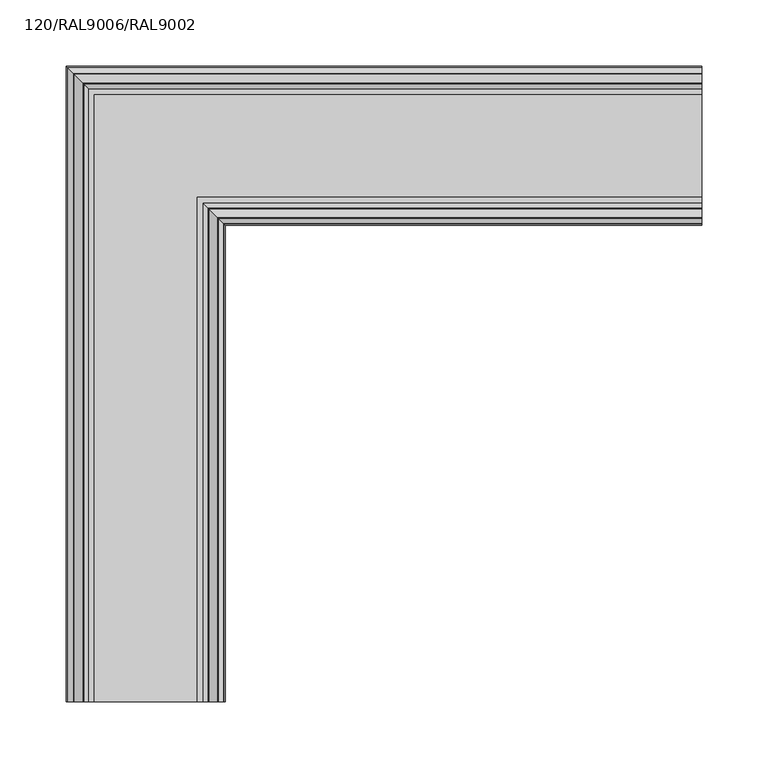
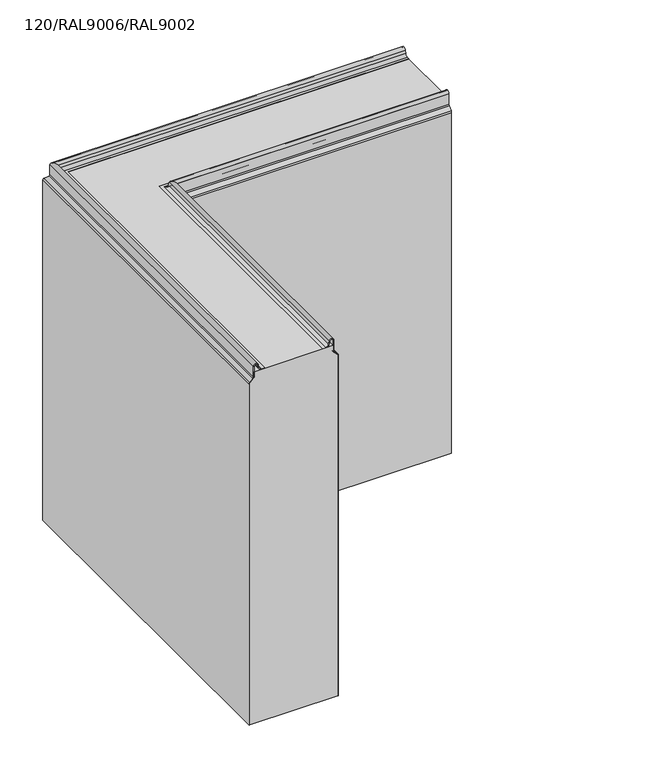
"""IFC4 building model written with IfcOpenShell, lengths in millimetres: plate geometry, TR_C_H_FTV_Corner_Tr_B_cut_TONGUE : 120/RAL9006/RAL9002."""

import ifcopenshell
import ifcopenshell.guid

model = None  # the IFC model being written
_history = None  # IfcOwnerHistory: only IFC2X3 demands one
_inside = {}  # id of a spatial element -> (the spatial element, [elements in it])
_under = {}  # id of a project, library or spatial element -> (it, [spatial elements below it])
_declared = {}  # id of a project -> (the project, [libraries it declares])
_typed = {}  # id of a type object -> (the type object, [elements of that type])
_made_of = {}  # id of a material, layer set ... -> (it, [elements and type objects made of it])


def new_model(schema):
    """Start an empty IFC model of exactly this schema.

    Asked for "IFC4X3", IfcOpenShell would pick the latest addendum, in which some entities
    have other attributes; the version numbers below select the first issue.
    IFC2X3 requires an IfcOwnerHistory on every rooted entity: one is made here for all.
    """
    global model, _history
    if schema == "IFC4X3":
        model = ifcopenshell.file(schema_version=(4, 3, 0, 0))
    else:
        model = ifcopenshell.file(schema=schema)
    _inside.clear()
    _under.clear()
    _declared.clear()
    _typed.clear()
    _made_of.clear()
    _history = None
    if model.schema == "IFC2X3":
        org = make("IfcOrganization", Name="unknown")
        user = make(
            "IfcPersonAndOrganization",
            ThePerson=make("IfcPerson", FamilyName="unknown"),
            TheOrganization=org,
        )
        app = make(
            "IfcApplication",
            ApplicationDeveloper=org,
            Version="unknown",
            ApplicationFullName="unknown",
            ApplicationIdentifier="unknown",
        )
        _history = make(
            "IfcOwnerHistory",
            OwningUser=user,
            OwningApplication=app,
            ChangeAction="ADDED",
            CreationDate=0,
        )
    return model


def make(cls, **values):
    """One entity of the class cls with the attributes given. An attribute that is None is left unset."""
    return model.create_entity(
        cls, **{name: value for name, value in values.items() if value is not None}
    )


def rooted(cls, **values):
    """An entity with a GlobalId (a new one), such as an element, a storey or a relation."""
    return make(cls, GlobalId=ifcopenshell.guid.new(), OwnerHistory=_history, **values)


def si_unit(unit_type, name, prefix=None):
    """IfcSIUnit, for example si_unit("LENGTHUNIT", "METRE", prefix="MILLI")."""
    return make("IfcSIUnit", UnitType=unit_type, Prefix=prefix, Name=name)


def assignment(units):
    """IfcUnitAssignment: the units of a project."""
    return None if units is None else make("IfcUnitAssignment", Units=units)


def point(xyz):
    """IfcCartesianPoint."""
    return None if xyz is None else make("IfcCartesianPoint", Coordinates=xyz)


def direction(xyz):
    """IfcDirection."""
    return None if xyz is None else make("IfcDirection", DirectionRatios=xyz)


def frame(location, z_axis=None, x_axis=None):
    """IfcAxis2Placement3D, a coordinate frame: its origin and axes. An axis left out is left unset."""
    return make(
        "IfcAxis2Placement3D",
        Location=point(location),
        Axis=direction(z_axis),
        RefDirection=direction(x_axis),
    )


def origin():
    """The frame at (0, 0, 0) with its axes left unset."""
    return frame((0.0, 0.0, 0.0))


def place(relative_to, where):
    """IfcLocalPlacement: puts the frame where relative to a parent placement (None: the world)."""
    return make(
        "IfcLocalPlacement", PlacementRelTo=relative_to, RelativePlacement=where
    )


def context(
    kind, dimensions, precision=None, world=None, true_north=None, identifier=None
):
    """IfcGeometricRepresentationContext, for example the 3D "Model" context."""
    return make(
        "IfcGeometricRepresentationContext",
        ContextIdentifier=identifier,
        ContextType=kind,
        CoordinateSpaceDimension=dimensions,
        Precision=precision,
        WorldCoordinateSystem=world,
        TrueNorth=true_north,
    )


def project(units=None, contexts=None):
    """IfcProject with its units and contexts."""
    return rooted(
        "IfcProject",
        Name="project",
        RepresentationContexts=contexts,
        UnitsInContext=assignment(units),
    )


def spatial(cls, under=None, at=None, **own):
    """A site, building, storey or space (cls), placed at a placement, below another one or the project."""
    s = rooted(cls, ObjectPlacement=at, **own)
    if under is not None:
        _under.setdefault(under.id(), (under, []))[1].append(s)
    return s


def polyline(points):
    """IfcPolyline through the points."""
    return make("IfcPolyline", Points=[point(p) for p in points])


def circle_curve(where, radius):
    """IfcCircle in the frame where."""
    return make("IfcCircle", Position=where, Radius=radius)


def ellipse_curve(where, semi_axis1, semi_axis2):
    """IfcEllipse in the frame where."""
    return make(
        "IfcEllipse", Position=where, SemiAxis1=semi_axis1, SemiAxis2=semi_axis2
    )


def shape(context_of_items, identifier, shape_type, items):
    """IfcShapeRepresentation: the items that make up one representation, for example the "Body"."""
    return make(
        "IfcShapeRepresentation",
        ContextOfItems=context_of_items,
        RepresentationIdentifier=identifier,
        RepresentationType=shape_type,
        Items=items,
    )


def source(mapping_origin, context_of_items, identifier, shape_type, items):
    """IfcRepresentationMap: a shape defined once, which mapped items show again and again."""
    return make(
        "IfcRepresentationMap",
        MappingOrigin=mapping_origin,
        MappedRepresentation=shape(context_of_items, identifier, shape_type, items),
    )


def transform(
    local_origin,
    x_axis=None,
    y_axis=None,
    z_axis=None,
    scale=None,
    scale2=None,
    scale3=None,
    uniform=True,
):
    """IfcCartesianTransformationOperator3D, or its non-uniform kind. x_axis, y_axis, z_axis: its Axis1, 2, 3."""
    if uniform:
        return make(
            "IfcCartesianTransformationOperator3D",
            Axis1=direction(x_axis),
            Axis2=direction(y_axis),
            LocalOrigin=point(local_origin),
            Scale=scale,
            Axis3=direction(z_axis),
        )
    return make(
        "IfcCartesianTransformationOperator3DnonUniform",
        Axis1=direction(x_axis),
        Axis2=direction(y_axis),
        LocalOrigin=point(local_origin),
        Scale=scale,
        Axis3=direction(z_axis),
        Scale2=scale2,
        Scale3=scale3,
    )


def mapped(mapping_source, mapping_target):
    """IfcMappedItem: shows the shape of a source again, moved by a transform."""
    return make(
        "IfcMappedItem", MappingSource=mapping_source, MappingTarget=mapping_target
    )


def made_of(thing, what):
    """Note that an element or type object is made of a material, layer set ...; save() writes the relation."""
    if what is not None:
        _made_of.setdefault(what.id(), (what, []))[1].append(thing)
    return thing


def element(
    cls,
    number,
    at=None,
    inside=None,
    cuts=None,
    type_object=None,
    material=None,
    context=None,
    identifier="Body",
    shape_type=None,
    held_by="IfcProductDefinitionShape",
    body=None,
    shapes=None,
    **own,
):
    """One element of the class cls, such as IfcWall. Its Tag is "e" and its number.

    at: its placement. inside: the storey or other place that contains it. cuts: it is an
    opening in that element (IfcRelVoidsElement). A single representation is given by context,
    identifier, shape_type and body (its items); several are given by shapes. held_by: the class
    of the entity that holds the representations. save() writes the other relations.
    """
    e = rooted(cls, Tag="e%d" % number, ObjectPlacement=at, **own)
    if body is not None:
        shapes = [shape(context, identifier, shape_type, body)]
    if shapes is not None:
        e.Representation = make(held_by, Representations=shapes)
    if inside is not None:
        _inside.setdefault(inside.id(), (inside, []))[1].append(e)
    if cuts is not None:
        rooted(
            "IfcRelVoidsElement", RelatingBuildingElement=cuts, RelatedOpeningElement=e
        )
    if type_object is not None:
        _typed.setdefault(type_object.id(), (type_object, []))[1].append(e)
    return made_of(e, material)


def aggregate(whole, parts):
    """IfcRelAggregates: a whole, such as a stair, and the parts it consists of."""
    return rooted("IfcRelAggregates", RelatingObject=whole, RelatedObjects=parts)


def save(model, path):
    """Write the relations noted so far, then the file.

    IfcRelAggregates (storeys below a building ...), IfcRelContainedInSpatialStructure (elements
    in a storey), IfcRelDefinesByType, IfcRelAssociatesMaterial and IfcRelDeclares: one each for
    every whole, place, type object, material and project.
    """
    for whole, parts in _under.values():
        aggregate(whole, parts)
    for where, things in _inside.values():
        rooted(
            "IfcRelContainedInSpatialStructure",
            RelatedElements=things,
            RelatingStructure=where,
        )
    for kind, things in _typed.values():
        rooted("IfcRelDefinesByType", RelatedObjects=things, RelatingType=kind)
    for what, things in _made_of.values():
        rooted("IfcRelAssociatesMaterial", RelatedObjects=things, RelatingMaterial=what)
    for by, libraries in _declared.values():
        rooted("IfcRelDeclares", RelatingContext=by, RelatedDefinitions=libraries)
    model.write(path)


def plane_surface(at):
    """IfcPlane: the flat surface through the origin of the frame at, square to its z axis."""
    return make("IfcPlane", Position=at)


def cylinder_surface(at, radius):
    """IfcCylindricalSurface: all points at the distance radius from the z axis of the frame at."""
    return make("IfcCylindricalSurface", Position=at, Radius=radius)


def revolved_surface(curve, axis_point, axis_direction):
    """IfcSurfaceOfRevolution: the curve turned about the line through axis_point along axis_direction."""
    return make(
        "IfcSurfaceOfRevolution",
        SweptCurve=make("IfcArbitraryOpenProfileDef", ProfileType="CURVE", Curve=curve),
        AxisPosition=make("IfcAxis1Placement", Location=point(axis_point), Axis=direction(axis_direction)),
    )


def advanced_brep(points, edges, surfaces, faces):
    """IfcAdvancedBrep: a solid bounded by faces that lie on surfaces and meet in shared edges.

    An edge is (start, end): straight between two places in points (the first is 0);
    or (start, end, curve); or (start, end, curve, False) where it runs against its curve.
    A face is (place in surfaces, loops), or (place, loops, False) where it looks against
    its surface's normal. A loop lists edges by number (the first is 1), with a minus sign
    where the edge is run from its end to its start. The first loop is the outer one.
    """
    corners = [point(p) for p in points]
    vertices = [make("IfcVertexPoint", VertexGeometry=c) for c in corners]
    made = []
    for start, end, *more in edges:
        made.append(
            make(
                "IfcEdgeCurve",
                EdgeStart=vertices[start],
                EdgeEnd=vertices[end],
                EdgeGeometry=more[0] if more else make("IfcPolyline", Points=[corners[start], corners[end]]),
                SameSense=more[1] if len(more) > 1 else True,
            )
        )
    hull = []
    for where, loops, *sense in faces:
        bounds = []
        for j, loop in enumerate(loops):
            ring = [make("IfcOrientedEdge", EdgeElement=made[abs(k) - 1], Orientation=k > 0) for k in loop]
            bounds.append(
                make(
                    "IfcFaceOuterBound" if j == 0 else "IfcFaceBound",
                    Bound=make("IfcEdgeLoop", EdgeList=ring),
                    Orientation=True,
                )
            )
        hull.append(make("IfcAdvancedFace", Bounds=bounds, FaceSurface=surfaces[where], SameSense=sense[0] if sense else True))
    return make("IfcAdvancedBrep", Outer=make("IfcClosedShell", CfsFaces=hull))


def plate_120_ral9006_ral9002_7ed2c163(model_context):
    return source(origin(), model_context, "Body", "AdvancedBrep", [
        advanced_brep(
        [(240.0, -6.8, 500.0), (240.0, -113.2, 500.0), (240.0, -113.2, 492.6000012), (240.0, -114.1665476, 490.2665488), (240.0, -118.5556349, 485.8774615), (240.0, -119.2, 484.3218266), (240.0, -119.2, 0.0), (240.0, -0.8, 0.0), (240.0, -0.8, 484.3218266), (240.0, -1.4443651, 485.8774615), (240.0, -5.8334524, 490.2665488), (240.0, -6.8, 492.6000012), (-233.2, -6.8, 500.0), (-233.2, -480.0, 500.0), (-126.8, -480.0, 500.0), (-126.8, -113.2, 500.0), (-126.8, -113.2, 492.6000012), (-125.8334524, -114.1665476, 490.2665488), (-121.4443651, -118.5556349, 485.8774615), (-120.8, -119.2, 484.3218266), (-239.2, -0.8, 484.3218266), (-238.5556349, -1.4443651, 485.8774615), (-234.1665476, -5.8334524, 490.2665488), (-233.2, -6.8, 492.6000012), (-233.2, -480.0, 492.6000012), (-234.1665476, -480.0, 490.2665488), (-238.5556349, -480.0, 485.8774615), (-239.2, -480.0, 484.3218266), (-239.2, -480.0, 0.0), (-120.8, -480.0, 0.0), (-120.8, -480.0, 484.3218266), (-121.4443651, -480.0, 485.8774615), (-125.8334524, -480.0, 490.2665488), (-126.8, -480.0, 492.6000012), (-120.8, -119.2, 0.0), (-239.2, -0.8, 0.0)],
        [
            (0, 1),
            (1, 2),
            (2, 3, circle_curve(frame((240.0, -116.5, 492.6000012), z_axis=(-1.0, 0.0, 0.0), x_axis=(0.0, -1.0, 0.0)), 3.3)),
            (3, 4),
            (4, 5, circle_curve(frame((240.0, -117.0, 484.3218266), z_axis=(1.0, 0.0, 0.0), x_axis=(0.0, -1.0, 0.0)), 2.2)),
            (5, 6),
            (6, 7),
            (7, 8),
            (8, 9, circle_curve(frame((240.0, -3.0, 484.3218266), z_axis=(1.0, 0.0, 0.0), x_axis=(0.0, -1.0, 0.0)), 2.2)),
            (9, 10),
            (10, 11, circle_curve(frame((240.0, -3.5, 492.6000012), z_axis=(-1.0, 0.0, 0.0), x_axis=(0.0, -1.0, 0.0)), 3.3)),
            (11, 0),
            (0, 12),
            (12, 13),
            (13, 14),
            (14, 15),
            (15, 1),
            (15, 16),
            (16, 2),
            (16, 17, ellipse_curve(frame((-123.5, -116.5, 492.6000012), z_axis=(-0.7071067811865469, -0.707106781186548, 0.0), x_axis=(-0.7071067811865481, 0.7071067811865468, 0.0)), 4.6669048, 3.3)),
            (17, 3),
            (17, 18),
            (18, 4),
            (18, 19, ellipse_curve(frame((-123.0, -117.0, 484.3218266), z_axis=(0.7071067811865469, 0.707106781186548, 0.0), x_axis=(0.7071067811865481, -0.7071067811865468, 0.0)), 3.1112698, 2.2)),
            (19, 5),
            (8, 20),
            (20, 21, ellipse_curve(frame((-237.0, -3.0, 484.3218266), z_axis=(0.7071067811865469, 0.707106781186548, 0.0), x_axis=(0.7071067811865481, -0.7071067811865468, 0.0)), 3.1112698, 2.2)),
            (21, 9),
            (21, 22),
            (22, 10),
            (22, 23, ellipse_curve(frame((-236.5, -3.5, 492.6000012), z_axis=(-0.7071067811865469, -0.707106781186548, 0.0), x_axis=(-0.7071067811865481, 0.7071067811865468, 0.0)), 4.6669048, 3.3)),
            (23, 11),
            (23, 12),
            (13, 24),
            (24, 25, circle_curve(frame((-236.5, -480.0, 492.6000012), z_axis=(0.0, 1.0, 0.0), x_axis=(1.0, 0.0, 0.0)), 3.3)),
            (25, 26),
            (26, 27, circle_curve(frame((-237.0, -480.0, 484.3218266), z_axis=(0.0, -1.0, 0.0), x_axis=(1.0, 0.0, 0.0)), 2.2)),
            (27, 28),
            (28, 29),
            (29, 30),
            (30, 31, circle_curve(frame((-123.0, -480.0, 484.3218266), z_axis=(0.0, -1.0, 0.0), x_axis=(1.0, 0.0, 0.0)), 2.2)),
            (31, 32),
            (32, 33, circle_curve(frame((-123.5, -480.0, 492.6000012), z_axis=(0.0, 1.0, 0.0), x_axis=(1.0, 0.0, 0.0)), 3.3)),
            (33, 14),
            (33, 16),
            (32, 17),
            (31, 18),
            (30, 19),
            (20, 27),
            (26, 21),
            (25, 22),
            (24, 23),
            (19, 34),
            (34, 6),
            (7, 35),
            (35, 20),
            (29, 34),
            (35, 28),
        ],
        [
            plane_surface(frame((240.0, 0.0, 0.0), z_axis=(1.0, 0.0, 0.0), x_axis=(0.0, 0.0, 1.0))),
            plane_surface(frame((240.0, -6.8, 500.0), z_axis=(0.0, 0.0, 1.0), x_axis=(-1.0, 0.0, 0.0))),
            plane_surface(frame((240.0, -113.2, 500.0), z_axis=(0.0, -1.0, 0.0), x_axis=(-1.0, 0.0, 0.0))),
            revolved_surface(polyline([(-126.80000003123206, -119.8, 492.6000012), (240.0, -119.8, 492.6000012)]), (240.0, -116.5, 492.6000012), (-1.0, 0.0, 0.0)),
            plane_surface(frame((240.0, -114.1665476, 490.2665488), z_axis=(0.0, -0.7071067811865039, 0.7071067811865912), x_axis=(-1.0, 0.0, 0.0))),
            cylinder_surface(frame((240.0, -117.0, 484.3218266), z_axis=(1.0, 0.0, 0.0), x_axis=(0.0, -1.0, 0.0)), 2.2),
            cylinder_surface(frame((240.0, -3.0, 484.3218266), z_axis=(1.0, 0.0, 0.0), x_axis=(0.0, -1.0, 0.0)), 2.2),
            plane_surface(frame((240.0, -1.4443651, 485.8774615), z_axis=(0.0, 0.7071067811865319, 0.7071067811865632), x_axis=(-1.0, 0.0, 0.0))),
            revolved_surface(polyline([(-239.80000003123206, -6.8, 492.6000012), (240.0, -6.8, 492.6000012)]), (240.0, -3.5, 492.6000012), (-1.0, 0.0, 0.0)),
            plane_surface(frame((240.0, -6.8, 492.6000012), z_axis=(0.0, 1.0, 0.0), x_axis=(-1.0, 0.0, 0.0))),
            plane_surface(frame((-240.0, -480.0, 0.0), z_axis=(0.0, -1.0, 0.0), x_axis=(0.0, 0.0, 1.0))),
            plane_surface(frame((-126.8, -113.2, 500.0), z_axis=(1.0, 0.0, 0.0), x_axis=(0.0, -1.0, 0.0))),
            revolved_surface(polyline([(-120.2, -480.0, 492.6000012), (-120.2, -113.19999996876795, 492.6000012)]), (-123.5, 0.0, 492.6000012), (0.0, -1.0, 0.0)),
            plane_surface(frame((-125.8334524, -114.1665476, 490.2665488), z_axis=(0.7071067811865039, 0.0, 0.7071067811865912), x_axis=(0.0, -1.0, 0.0))),
            cylinder_surface(frame((-123.0, 0.0, 484.3218266), z_axis=(0.0, 1.0, 0.0), x_axis=(1.0, 0.0, 0.0)), 2.2),
            cylinder_surface(frame((-237.0, 0.0, 484.3218266), z_axis=(0.0, 1.0, 0.0), x_axis=(1.0, 0.0, 0.0)), 2.2),
            plane_surface(frame((-238.5556349, -1.4443651, 485.8774615), z_axis=(-0.7071067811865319, 0.0, 0.7071067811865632), x_axis=(0.0, -1.0, 0.0))),
            revolved_surface(polyline([(-233.2, -480.0, 492.6000012), (-233.2, -0.19999996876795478, 492.6000012)]), (-236.5, 0.0, 492.6000012), (0.0, -1.0, 0.0)),
            plane_surface(frame((-233.2, -6.8, 492.6000012), z_axis=(-1.0, 0.0, 0.0), x_axis=(0.0, -1.0, 0.0))),
            plane_surface(frame((240.0, -119.2, 484.3218266), z_axis=(0.0, -1.0, 0.0), x_axis=(-1.0, 0.0, 0.0))),
            plane_surface(frame((240.0, -0.8, -485.6), z_axis=(0.0, 1.0, 0.0), x_axis=(-1.0, 0.0, 0.0))),
            plane_surface(frame((-120.8, -119.2, 484.3218266), z_axis=(1.0, 0.0, 0.0), x_axis=(0.0, -1.0, 0.0))),
            plane_surface(frame((-239.2, -0.8, -485.6), z_axis=(-1.0, 0.0, 0.0), x_axis=(0.0, -1.0, 0.0))),
            plane_surface(frame((240.0, 0.0, 0.0), z_axis=(0.0, 0.0, -1.0), x_axis=(-1.0, 0.0, 0.0))),
        ],
        [
            (0, [[1, 2, 3, 4, 5, 6, 7, 8, 9, 10, 11, 12]]),
            (1, [[-1, 13, 14, 15, 16, 17]]),
            (2, [[-2, -17, 18, 19]]),
            (3, [[-3, -19, 20, 21]]),
            (4, [[-4, -21, 22, 23]]),
            (5, [[-5, -23, 24, 25]]),
            (6, [[-9, 26, 27, 28]]),
            (7, [[-10, -28, 29, 30]]),
            (8, [[-11, -30, 31, 32]]),
            (9, [[-12, -32, 33, -13]]),
            (10, [[-15, 34, 35, 36, 37, 38, 39, 40, 41, 42, 43, 44]]),
            (11, [[-16, -44, 45, -18]]),
            (12, [[-20, -45, -43, 46]]),
            (13, [[-22, -46, -42, 47]]),
            (14, [[-24, -47, -41, 48]]),
            (15, [[-27, 49, -37, 50]]),
            (16, [[-29, -50, -36, 51]]),
            (17, [[-31, -51, -35, 52]]),
            (18, [[-14, -33, -52, -34]]),
            (19, [[-25, 53, 54, -6]]),
            (20, [[-26, -8, 55, 56]]),
            (21, [[-48, -40, 57, -53]]),
            (22, [[-49, -56, 58, -38]]),
            (23, [[-7, -54, -57, -39, -58, -55]]),
        ],
    ),
        advanced_brep(
        [(240.0, -16.8869672, 499.8000012), (240.0, -12.4060919, 503.559902), (240.0, -11.662779, 507.7754392), (240.0, -6.8, 507.3500012), (240.0, -6.8, 492.6000012), (240.0, -5.8334524, 490.2665488), (240.0, -1.4443651, 485.8774615), (240.0, -0.8, 484.3218266), (240.0, -0.8, 0.0), (240.0, 0.0, 0.0), (240.0, 0.0, 484.3218266), (240.0, -0.8786797, 486.4431469), (240.0, -5.267767, 490.8322342), (240.0, -6.0, 492.6000012), (240.0, -6.0, 507.3500012), (240.0, -12.4506252, 507.9143577), (240.0, -13.1939382, 503.6988205), (240.0, -16.8869672, 500.6000012), (240.0, -21.0, 500.6000012), (240.0, -21.0, 499.8000012), (-223.1130328, -16.8869672, 499.8000012), (-227.5939081, -12.4060919, 503.559902), (-228.337221, -11.662779, 507.7754392), (-233.2, -6.8, 507.3500012), (-233.2, -6.8, 492.6000012), (-234.1665476, -5.8334524, 490.2665488), (-238.5556349, -1.4443651, 485.8774615), (-239.2, -0.8, 484.3218266), (-240.0, 0.0, 484.3218266), (-239.1213203, -0.8786797, 486.4431469), (-234.732233, -5.267767, 490.8322342), (-234.0, -6.0, 492.6000012), (-234.0, -6.0, 507.3500012), (-227.5493748, -12.4506252, 507.9143577), (-226.8060618, -13.1939382, 503.6988205), (-223.1130328, -16.8869672, 500.6000012), (-223.1130328, -480.0, 500.6000012), (-219.0, -480.0, 500.6000012), (-219.0, -21.0, 500.6000012), (-219.0, -21.0, 499.8000012), (-219.0, -480.0, 499.8000012), (-223.1130328, -480.0, 499.8000012), (-226.8060618, -480.0, 503.6988205), (-227.5493748, -480.0, 507.9143577), (-234.0, -480.0, 507.3500012), (-234.0, -480.0, 492.6000012), (-234.732233, -480.0, 490.8322342), (-239.1213203, -480.0, 486.4431469), (-240.0, -480.0, 484.3218266), (-240.0, -480.0, 0.0), (-239.2, -480.0, 0.0), (-239.2, -480.0, 484.3218266), (-238.5556349, -480.0, 485.8774615), (-234.1665476, -480.0, 490.2665488), (-233.2, -480.0, 492.6000012), (-233.2, -480.0, 507.3500012), (-228.337221, -480.0, 507.7754392), (-227.5939081, -480.0, 503.559902), (-239.2, -0.8, 0.0), (-240.0, 0.0, 0.0)],
        [
            (0, 1, circle_curve(frame((240.0, -16.8869672, 504.3500012), z_axis=(1.0, 0.0, 0.0), x_axis=(0.0, -1.0, 0.0)), 4.55)),
            (1, 2),
            (2, 3, circle_curve(frame((240.0, -9.25, 507.3500012), z_axis=(-1.0, 0.0, 0.0), x_axis=(0.0, -1.0, 0.0)), 2.45)),
            (3, 4),
            (4, 5, circle_curve(frame((240.0, -3.5, 492.6000012), z_axis=(1.0, 0.0, 0.0), x_axis=(0.0, -1.0, 0.0)), 3.3)),
            (5, 6),
            (6, 7, circle_curve(frame((240.0, -3.0, 484.3218266), z_axis=(-1.0, 0.0, 0.0), x_axis=(0.0, -1.0, 0.0)), 2.2)),
            (7, 8),
            (8, 9),
            (9, 10),
            (10, 11, circle_curve(frame((240.0, -3.0, 484.3218266), z_axis=(1.0, 0.0, 0.0), x_axis=(0.0, -1.0, 0.0)), 3.0)),
            (11, 12),
            (12, 13, circle_curve(frame((240.0, -3.5, 492.6000012), z_axis=(-1.0, 0.0, 0.0), x_axis=(0.0, -1.0, 0.0)), 2.5)),
            (13, 14),
            (14, 15, circle_curve(frame((240.0, -9.25, 507.3500012), z_axis=(1.0, 0.0, 0.0), x_axis=(0.0, -1.0, 0.0)), 3.25)),
            (15, 16),
            (16, 17, circle_curve(frame((240.0, -16.8869672, 504.3500012), z_axis=(-1.0, 0.0, 0.0), x_axis=(0.0, -1.0, 0.0)), 3.75)),
            (17, 18),
            (18, 19),
            (19, 0),
            (0, 20),
            (20, 21, ellipse_curve(frame((-223.1130328, -16.8869672, 504.3500012), z_axis=(0.7071067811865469, 0.707106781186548, 0.0), x_axis=(0.7071067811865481, -0.7071067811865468, 0.0)), 6.4346717, 4.55)),
            (21, 1),
            (21, 22),
            (22, 2),
            (22, 23, ellipse_curve(frame((-230.75, -9.25, 507.3500012), z_axis=(-0.7071067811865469, -0.707106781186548, 0.0), x_axis=(-0.7071067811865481, 0.7071067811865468, 0.0)), 3.4648232, 2.45)),
            (23, 3),
            (23, 24),
            (24, 4),
            (24, 25, ellipse_curve(frame((-236.5, -3.5, 492.6000012), z_axis=(0.7071067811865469, 0.707106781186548, 0.0), x_axis=(0.7071067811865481, -0.7071067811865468, 0.0)), 4.6669048, 3.3)),
            (25, 5),
            (25, 26),
            (26, 6),
            (26, 27, ellipse_curve(frame((-237.0, -3.0, 484.3218266), z_axis=(-0.7071067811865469, -0.707106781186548, 0.0), x_axis=(-0.7071067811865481, 0.7071067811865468, 0.0)), 3.1112698, 2.2)),
            (27, 7),
            (10, 28),
            (28, 29, ellipse_curve(frame((-237.0, -3.0, 484.3218266), z_axis=(0.7071067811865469, 0.707106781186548, 0.0), x_axis=(0.7071067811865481, -0.7071067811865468, 0.0)), 4.2426407, 3.0)),
            (29, 11),
            (29, 30),
            (30, 12),
            (30, 31, ellipse_curve(frame((-236.5, -3.5, 492.6000012), z_axis=(-0.7071067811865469, -0.707106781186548, 0.0), x_axis=(-0.7071067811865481, 0.7071067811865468, 0.0)), 3.5355339, 2.5)),
            (31, 13),
            (31, 32),
            (32, 14),
            (32, 33, ellipse_curve(frame((-230.75, -9.25, 507.3500012), z_axis=(0.7071067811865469, 0.707106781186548, 0.0), x_axis=(0.7071067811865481, -0.7071067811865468, 0.0)), 4.5961941, 3.25)),
            (33, 15),
            (33, 34),
            (34, 16),
            (34, 35, ellipse_curve(frame((-223.1130328, -16.8869672, 504.3500012), z_axis=(-0.7071067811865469, -0.707106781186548, 0.0), x_axis=(-0.7071067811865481, 0.7071067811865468, 0.0)), 5.3033009, 3.75)),
            (35, 17),
            (35, 36),
            (36, 37),
            (37, 38),
            (38, 18),
            (38, 39),
            (39, 19),
            (39, 40),
            (40, 41),
            (41, 20),
            (36, 42, circle_curve(frame((-223.1130328, -480.0, 504.3500012), z_axis=(0.0, 1.0, 0.0), x_axis=(1.0, 0.0, 0.0)), 3.75)),
            (42, 43),
            (43, 44, circle_curve(frame((-230.75, -480.0, 507.3500012), z_axis=(0.0, -1.0, 0.0), x_axis=(1.0, 0.0, 0.0)), 3.25)),
            (44, 45),
            (45, 46, circle_curve(frame((-236.5, -480.0, 492.6000012), z_axis=(0.0, 1.0, 0.0), x_axis=(1.0, 0.0, 0.0)), 2.5)),
            (46, 47),
            (47, 48, circle_curve(frame((-237.0, -480.0, 484.3218266), z_axis=(0.0, -1.0, 0.0), x_axis=(1.0, 0.0, 0.0)), 3.0)),
            (48, 49),
            (49, 50),
            (50, 51),
            (51, 52, circle_curve(frame((-237.0, -480.0, 484.3218266), z_axis=(0.0, 1.0, 0.0), x_axis=(1.0, 0.0, 0.0)), 2.2)),
            (52, 53),
            (53, 54, circle_curve(frame((-236.5, -480.0, 492.6000012), z_axis=(0.0, -1.0, 0.0), x_axis=(1.0, 0.0, 0.0)), 3.3)),
            (54, 55),
            (55, 56, circle_curve(frame((-230.75, -480.0, 507.3500012), z_axis=(0.0, 1.0, 0.0), x_axis=(1.0, 0.0, 0.0)), 2.45)),
            (56, 57),
            (57, 41, circle_curve(frame((-223.1130328, -480.0, 504.3500012), z_axis=(0.0, -1.0, 0.0), x_axis=(1.0, 0.0, 0.0)), 4.55)),
            (40, 37),
            (57, 21),
            (56, 22),
            (55, 23),
            (54, 24),
            (53, 25),
            (52, 26),
            (51, 27),
            (28, 48),
            (47, 29),
            (46, 30),
            (45, 31),
            (44, 32),
            (43, 33),
            (42, 34),
            (27, 58),
            (58, 8),
            (9, 59),
            (59, 28),
            (50, 58),
            (59, 49),
        ],
        [
            plane_surface(frame((240.0, 0.0, 0.0), z_axis=(1.0, 0.0, 0.0), x_axis=(0.0, 0.0, 1.0))),
            cylinder_surface(frame((240.0, -16.8869672, 504.3500012), z_axis=(1.0, 0.0, 0.0), x_axis=(0.0, -1.0, 0.0)), 4.55),
            plane_surface(frame((240.0, -12.4060919, 503.559902), z_axis=(0.0, 0.9848077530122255, -0.17364817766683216), x_axis=(-1.0, 0.0, 0.0))),
            revolved_surface(polyline([(-233.2, -11.7, 507.3500012), (240.0, -11.7, 507.3500012)]), (240.0, -9.25, 507.3500012), (-1.0, 0.0, 0.0)),
            plane_surface(frame((240.0, -6.8, 507.3500012), z_axis=(0.0, -1.0, 0.0), x_axis=(-1.0, 0.0, 0.0))),
            cylinder_surface(frame((240.0, -3.5, 492.6000012), z_axis=(1.0, 0.0, 0.0), x_axis=(0.0, -1.0, 0.0)), 3.3),
            plane_surface(frame((240.0, -5.8334524, 490.2665488), z_axis=(0.0, -0.7071067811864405, -0.7071067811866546), x_axis=(-1.0, 0.0, 0.0))),
            revolved_surface(polyline([(-239.2, -5.2, 484.3218266), (240.0, -5.2, 484.3218266)]), (240.0, -3.0, 484.3218266), (-1.0, 0.0, 0.0)),
            cylinder_surface(frame((240.0, -3.0, 484.3218266), z_axis=(1.0, 0.0, 0.0), x_axis=(0.0, -1.0, 0.0)), 3.0),
            plane_surface(frame((240.0, -0.8786797, 486.4431469), z_axis=(0.0, 0.7071067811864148, 0.7071067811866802), x_axis=(-1.0, 0.0, 0.0))),
            revolved_surface(polyline([(-238.9999999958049, -6.0, 492.6000012), (240.0, -6.0, 492.6000012)]), (240.0, -3.5, 492.6000012), (-1.0, 0.0, 0.0)),
            plane_surface(frame((240.0, -6.0, 492.6000012), z_axis=(0.0, 1.0, 0.0), x_axis=(-1.0, 0.0, 0.0))),
            cylinder_surface(frame((240.0, -9.25, 507.3500012), z_axis=(1.0, 0.0, 0.0), x_axis=(0.0, -1.0, 0.0)), 3.25),
            plane_surface(frame((240.0, -12.4506252, 507.9143577), z_axis=(0.0, -0.9848077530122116, 0.17364817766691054), x_axis=(-1.0, 0.0, 0.0))),
            revolved_surface(polyline([(-226.86303282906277, -20.6369672, 504.3500012), (240.0, -20.6369672, 504.3500012)]), (240.0, -16.8869672, 504.3500012), (-1.0, 0.0, 0.0)),
            plane_surface(frame((240.0, -16.8869672, 500.6000012), z_axis=(0.0, 0.0, 1.0), x_axis=(-1.0, 0.0, 0.0))),
            plane_surface(frame((240.0, -21.0, 500.6000012), z_axis=(0.0, -1.0, 0.0), x_axis=(-1.0, 0.0, 0.0))),
            plane_surface(frame((240.0, -21.0, 499.8000012), z_axis=(0.0, 0.0, -1.0), x_axis=(-1.0, 0.0, 0.0))),
            plane_surface(frame((-240.0, -480.0, 0.0), z_axis=(0.0, -1.0, 0.0), x_axis=(0.0, 0.0, 1.0))),
            cylinder_surface(frame((-223.1130328, 0.0, 504.3500012), z_axis=(0.0, 1.0, 0.0), x_axis=(1.0, 0.0, 0.0)), 4.55),
            plane_surface(frame((-227.5939081, -12.4060919, 503.559902), z_axis=(-0.9848077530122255, 0.0, -0.17364817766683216), x_axis=(0.0, -1.0, 0.0))),
            revolved_surface(polyline([(-228.3, -480.0, 507.3500012), (-228.3, -6.8, 507.3500012)]), (-230.75, 0.0, 507.3500012), (0.0, -1.0, 0.0)),
            plane_surface(frame((-233.2, -6.8, 507.3500012), z_axis=(1.0, 0.0, 0.0), x_axis=(0.0, -1.0, 0.0))),
            cylinder_surface(frame((-236.5, 0.0, 492.6000012), z_axis=(0.0, 1.0, 0.0), x_axis=(1.0, 0.0, 0.0)), 3.3),
            plane_surface(frame((-234.1665476, -5.8334524, 490.2665488), z_axis=(0.7071067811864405, 0.0, -0.7071067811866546), x_axis=(0.0, -1.0, 0.0))),
            revolved_surface(polyline([(-234.8, -480.0, 484.3218266), (-234.8, -0.8, 484.3218266)]), (-237.0, 0.0, 484.3218266), (0.0, -1.0, 0.0)),
            cylinder_surface(frame((-237.0, 0.0, 484.3218266), z_axis=(0.0, 1.0, 0.0), x_axis=(1.0, 0.0, 0.0)), 3.0),
            plane_surface(frame((-239.1213203, -0.8786797, 486.4431469), z_axis=(-0.7071067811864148, 0.0, 0.7071067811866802), x_axis=(0.0, -1.0, 0.0))),
            revolved_surface(polyline([(-234.0, -480.0, 492.6000012), (-234.0, -1.0000000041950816, 492.6000012)]), (-236.5, 0.0, 492.6000012), (0.0, -1.0, 0.0)),
            plane_surface(frame((-234.0, -6.0, 492.6000012), z_axis=(-1.0, 0.0, 0.0), x_axis=(0.0, -1.0, 0.0))),
            cylinder_surface(frame((-230.75, 0.0, 507.3500012), z_axis=(0.0, 1.0, 0.0), x_axis=(1.0, 0.0, 0.0)), 3.25),
            plane_surface(frame((-227.5493748, -12.4506252, 507.9143577), z_axis=(0.9848077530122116, 0.0, 0.17364817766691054), x_axis=(0.0, -1.0, 0.0))),
            revolved_surface(polyline([(-219.3630328, -480.0, 504.3500012), (-219.3630328, -13.136967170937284, 504.3500012)]), (-223.1130328, 0.0, 504.3500012), (0.0, -1.0, 0.0)),
            plane_surface(frame((-219.0, -21.0, 500.6000012), z_axis=(1.0, 0.0, 0.0), x_axis=(0.0, -1.0, 0.0))),
            plane_surface(frame((240.0, -0.8, 484.3218266), z_axis=(0.0, -1.0, 0.0), x_axis=(-1.0, 0.0, 0.0))),
            plane_surface(frame((240.0, 0.0, -505.0186292), z_axis=(0.0, 1.0, 0.0), x_axis=(-1.0, 0.0, 0.0))),
            plane_surface(frame((-239.2, -0.8, 484.3218266), z_axis=(1.0, 0.0, 0.0), x_axis=(0.0, -1.0, 0.0))),
            plane_surface(frame((-240.0, 0.0, -505.0186292), z_axis=(-1.0, 0.0, 0.0), x_axis=(0.0, -1.0, 0.0))),
            plane_surface(frame((240.0, 0.0, 0.0), z_axis=(0.0, 0.0, -1.0), x_axis=(-1.0, 0.0, 0.0))),
        ],
        [
            (0, [[1, 2, 3, 4, 5, 6, 7, 8, 9, 10, 11, 12, 13, 14, 15, 16, 17, 18, 19, 20]]),
            (1, [[-1, 21, 22, 23]]),
            (2, [[-2, -23, 24, 25]]),
            (3, [[-3, -25, 26, 27]]),
            (4, [[-4, -27, 28, 29]]),
            (5, [[-5, -29, 30, 31]]),
            (6, [[-6, -31, 32, 33]]),
            (7, [[-7, -33, 34, 35]]),
            (8, [[-11, 36, 37, 38]]),
            (9, [[-12, -38, 39, 40]]),
            (10, [[-13, -40, 41, 42]]),
            (11, [[-14, -42, 43, 44]]),
            (12, [[-15, -44, 45, 46]]),
            (13, [[-16, -46, 47, 48]]),
            (14, [[-17, -48, 49, 50]]),
            (15, [[-18, -50, 51, 52, 53, 54]]),
            (16, [[-19, -54, 55, 56]]),
            (17, [[-20, -56, 57, 58, 59, -21]]),
            (18, [[-52, 60, 61, 62, 63, 64, 65, 66, 67, 68, 69, 70, 71, 72, 73, 74, 75, 76, -58, 77]]),
            (19, [[-22, -59, -76, 78]]),
            (20, [[-24, -78, -75, 79]]),
            (21, [[-26, -79, -74, 80]]),
            (22, [[-28, -80, -73, 81]]),
            (23, [[-30, -81, -72, 82]]),
            (24, [[-32, -82, -71, 83]]),
            (25, [[-34, -83, -70, 84]]),
            (26, [[-37, 85, -66, 86]]),
            (27, [[-39, -86, -65, 87]]),
            (28, [[-41, -87, -64, 88]]),
            (29, [[-43, -88, -63, 89]]),
            (30, [[-45, -89, -62, 90]]),
            (31, [[-47, -90, -61, 91]]),
            (32, [[-49, -91, -60, -51]]),
            (33, [[-53, -77, -57, -55]]),
            (34, [[-35, 92, 93, -8]]),
            (35, [[-36, -10, 94, 95]]),
            (36, [[-84, -69, 96, -92]]),
            (37, [[-85, -95, 97, -67]]),
            (38, [[-9, -93, -96, -68, -97, -94]]),
        ],
    ),
        advanced_brep(
        [(240.0, -99.0, 500.6000012), (240.0, -103.1130328, 500.6000012), (240.0, -106.8060618, 503.6988205), (240.0, -107.5493748, 507.9143577), (240.0, -114.0, 507.3500012), (240.0, -114.0, 492.6000012), (240.0, -114.732233, 490.8322342), (240.0, -119.1213203, 486.4431469), (240.0, -120.0, 484.3218266), (240.0, -120.0, 0.0), (240.0, -119.2, 0.0), (240.0, -119.2, 484.3218266), (240.0, -118.5556349, 485.8774615), (240.0, -114.1665476, 490.2665488), (240.0, -113.2, 492.6000012), (240.0, -113.2, 507.3500012), (240.0, -108.337221, 507.7754392), (240.0, -107.5939081, 503.559902), (240.0, -103.1130328, 499.8000012), (240.0, -99.0, 499.8000012), (-141.0, -99.0, 500.6000012), (-141.0, -480.0, 500.6000012), (-136.8869672, -480.0, 500.6000012), (-136.8869672, -103.1130328, 500.6000012), (-133.1939382, -106.8060618, 503.6988205), (-132.4506252, -107.5493748, 507.9143577), (-126.0, -114.0, 507.3500012), (-126.0, -114.0, 492.6000012), (-125.267767, -114.732233, 490.8322342), (-120.8786797, -119.1213203, 486.4431469), (-120.0, -120.0, 484.3218266), (-120.8, -119.2, 484.3218266), (-121.4443651, -118.5556349, 485.8774615), (-125.8334524, -114.1665476, 490.2665488), (-126.8, -113.2, 492.6000012), (-126.8, -113.2, 507.3500012), (-131.662779, -108.337221, 507.7754392), (-132.4060919, -107.5939081, 503.559902), (-136.8869672, -103.1130328, 499.8000012), (-136.8869672, -480.0, 499.8000012), (-141.0, -480.0, 499.8000012), (-141.0, -99.0, 499.8000012), (-132.4060919, -480.0, 503.559902), (-131.662779, -480.0, 507.7754392), (-126.8, -480.0, 507.3500012), (-126.8, -480.0, 492.6000012), (-125.8334524, -480.0, 490.2665488), (-121.4443651, -480.0, 485.8774615), (-120.8, -480.0, 484.3218266), (-120.8, -480.0, 0.0), (-120.0, -480.0, 0.0), (-120.0, -480.0, 484.3218266), (-120.8786797, -480.0, 486.4431469), (-125.267767, -480.0, 490.8322342), (-126.0, -480.0, 492.6000012), (-126.0, -480.0, 507.3500012), (-132.4506252, -480.0, 507.9143577), (-133.1939382, -480.0, 503.6988205), (-120.0, -120.0, 0.0), (-120.8, -119.2, 0.0)],
        [
            (0, 1),
            (1, 2, circle_curve(frame((240.0, -103.1130328, 504.3500012), z_axis=(-1.0, 0.0, 0.0), x_axis=(0.0, -1.0, 0.0)), 3.75)),
            (2, 3),
            (3, 4, circle_curve(frame((240.0, -110.75, 507.3500012), z_axis=(1.0, 0.0, 0.0), x_axis=(0.0, -1.0, 0.0)), 3.25)),
            (4, 5),
            (5, 6, circle_curve(frame((240.0, -116.5, 492.6000012), z_axis=(-1.0, 0.0, 0.0), x_axis=(0.0, -1.0, 0.0)), 2.5)),
            (6, 7),
            (7, 8, circle_curve(frame((240.0, -117.0, 484.3218266), z_axis=(1.0, 0.0, 0.0), x_axis=(0.0, -1.0, 0.0)), 3.0)),
            (8, 9),
            (9, 10),
            (10, 11),
            (11, 12, circle_curve(frame((240.0, -117.0, 484.3218266), z_axis=(-1.0, 0.0, 0.0), x_axis=(0.0, -1.0, 0.0)), 2.2)),
            (12, 13),
            (13, 14, circle_curve(frame((240.0, -116.5, 492.6000012), z_axis=(1.0, 0.0, 0.0), x_axis=(0.0, -1.0, 0.0)), 3.3)),
            (14, 15),
            (15, 16, circle_curve(frame((240.0, -110.75, 507.3500012), z_axis=(-1.0, 0.0, 0.0), x_axis=(0.0, -1.0, 0.0)), 2.45)),
            (16, 17),
            (17, 18, circle_curve(frame((240.0, -103.1130328, 504.3500012), z_axis=(1.0, 0.0, 0.0), x_axis=(0.0, -1.0, 0.0)), 4.55)),
            (18, 19),
            (19, 0),
            (0, 20),
            (20, 21),
            (21, 22),
            (22, 23),
            (23, 1),
            (23, 24, ellipse_curve(frame((-136.8869672, -103.1130328, 504.3500012), z_axis=(-0.7071067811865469, -0.707106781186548, 0.0), x_axis=(-0.7071067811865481, 0.7071067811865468, 0.0)), 5.3033009, 3.75)),
            (24, 2),
            (24, 25),
            (25, 3),
            (25, 26, ellipse_curve(frame((-129.25, -110.75, 507.3500012), z_axis=(0.7071067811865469, 0.707106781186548, 0.0), x_axis=(0.7071067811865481, -0.7071067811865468, 0.0)), 4.5961941, 3.25)),
            (26, 4),
            (26, 27),
            (27, 5),
            (27, 28, ellipse_curve(frame((-123.5, -116.5, 492.6000012), z_axis=(-0.7071067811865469, -0.707106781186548, 0.0), x_axis=(-0.7071067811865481, 0.7071067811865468, 0.0)), 3.5355339, 2.5)),
            (28, 6),
            (28, 29),
            (29, 7),
            (29, 30, ellipse_curve(frame((-123.0, -117.0, 484.3218266), z_axis=(0.7071067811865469, 0.707106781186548, 0.0), x_axis=(0.7071067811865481, -0.7071067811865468, 0.0)), 4.2426407, 3.0)),
            (30, 8),
            (11, 31),
            (31, 32, ellipse_curve(frame((-123.0, -117.0, 484.3218266), z_axis=(-0.7071067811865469, -0.707106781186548, 0.0), x_axis=(-0.7071067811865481, 0.7071067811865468, 0.0)), 3.1112698, 2.2)),
            (32, 12),
            (32, 33),
            (33, 13),
            (33, 34, ellipse_curve(frame((-123.5, -116.5, 492.6000012), z_axis=(0.7071067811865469, 0.707106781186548, 0.0), x_axis=(0.7071067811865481, -0.7071067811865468, 0.0)), 4.6669048, 3.3)),
            (34, 14),
            (34, 35),
            (35, 15),
            (35, 36, ellipse_curve(frame((-129.25, -110.75, 507.3500012), z_axis=(-0.7071067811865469, -0.707106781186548, 0.0), x_axis=(-0.7071067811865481, 0.7071067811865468, 0.0)), 3.4648232, 2.45)),
            (36, 16),
            (36, 37),
            (37, 17),
            (37, 38, ellipse_curve(frame((-136.8869672, -103.1130328, 504.3500012), z_axis=(0.7071067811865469, 0.707106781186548, 0.0), x_axis=(0.7071067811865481, -0.7071067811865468, 0.0)), 6.4346717, 4.55)),
            (38, 18),
            (38, 39),
            (39, 40),
            (40, 41),
            (41, 19),
            (41, 20),
            (21, 40),
            (39, 42, circle_curve(frame((-136.8869672, -480.0, 504.3500012), z_axis=(0.0, -1.0, 0.0), x_axis=(1.0, 0.0, 0.0)), 4.55)),
            (42, 43),
            (43, 44, circle_curve(frame((-129.25, -480.0, 507.3500012), z_axis=(0.0, 1.0, 0.0), x_axis=(1.0, 0.0, 0.0)), 2.45)),
            (44, 45),
            (45, 46, circle_curve(frame((-123.5, -480.0, 492.6000012), z_axis=(0.0, -1.0, 0.0), x_axis=(1.0, 0.0, 0.0)), 3.3)),
            (46, 47),
            (47, 48, circle_curve(frame((-123.0, -480.0, 484.3218266), z_axis=(0.0, 1.0, 0.0), x_axis=(1.0, 0.0, 0.0)), 2.2)),
            (48, 49),
            (49, 50),
            (50, 51),
            (51, 52, circle_curve(frame((-123.0, -480.0, 484.3218266), z_axis=(0.0, -1.0, 0.0), x_axis=(1.0, 0.0, 0.0)), 3.0)),
            (52, 53),
            (53, 54, circle_curve(frame((-123.5, -480.0, 492.6000012), z_axis=(0.0, 1.0, 0.0), x_axis=(1.0, 0.0, 0.0)), 2.5)),
            (54, 55),
            (55, 56, circle_curve(frame((-129.25, -480.0, 507.3500012), z_axis=(0.0, -1.0, 0.0), x_axis=(1.0, 0.0, 0.0)), 3.25)),
            (56, 57),
            (57, 22, circle_curve(frame((-136.8869672, -480.0, 504.3500012), z_axis=(0.0, 1.0, 0.0), x_axis=(1.0, 0.0, 0.0)), 3.75)),
            (57, 24),
            (56, 25),
            (55, 26),
            (54, 27),
            (53, 28),
            (52, 29),
            (51, 30),
            (31, 48),
            (47, 32),
            (46, 33),
            (45, 34),
            (44, 35),
            (43, 36),
            (42, 37),
            (30, 58),
            (58, 9),
            (10, 59),
            (59, 31),
            (50, 58),
            (59, 49),
        ],
        [
            plane_surface(frame((240.0, 0.0, 0.0), z_axis=(1.0, 0.0, 0.0), x_axis=(0.0, 0.0, 1.0))),
            plane_surface(frame((240.0, -99.0, 500.6000012), z_axis=(0.0, 0.0, 1.0), x_axis=(-1.0, 0.0, 0.0))),
            revolved_surface(polyline([(-140.6369672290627, -106.8630328, 504.3500012), (240.0, -106.8630328, 504.3500012)]), (240.0, -103.1130328, 504.3500012), (-1.0, 0.0, 0.0)),
            plane_surface(frame((240.0, -106.8060618, 503.6988205), z_axis=(0.0, 0.9848077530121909, 0.17364817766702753), x_axis=(-1.0, 0.0, 0.0))),
            cylinder_surface(frame((240.0, -110.75, 507.3500012), z_axis=(1.0, 0.0, 0.0), x_axis=(0.0, -1.0, 0.0)), 3.25),
            plane_surface(frame((240.0, -114.0, 507.3500012), z_axis=(0.0, -1.0, 0.0), x_axis=(-1.0, 0.0, 0.0))),
            revolved_surface(polyline([(-126.0, -119.0, 492.6000012), (240.0, -119.0, 492.6000012)]), (240.0, -116.5, 492.6000012), (-1.0, 0.0, 0.0)),
            plane_surface(frame((240.0, -114.732233, 490.8322342), z_axis=(0.0, -0.7071067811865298, 0.7071067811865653), x_axis=(-1.0, 0.0, 0.0))),
            cylinder_surface(frame((240.0, -117.0, 484.3218266), z_axis=(1.0, 0.0, 0.0), x_axis=(0.0, -1.0, 0.0)), 3.0),
            revolved_surface(polyline([(-125.19999997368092, -119.2, 484.3218266), (240.0, -119.2, 484.3218266)]), (240.0, -117.0, 484.3218266), (-1.0, 0.0, 0.0)),
            plane_surface(frame((240.0, -118.5556349, 485.8774615), z_axis=(0.0, 0.7071067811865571, -0.707106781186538), x_axis=(-1.0, 0.0, 0.0))),
            cylinder_surface(frame((240.0, -116.5, 492.6000012), z_axis=(1.0, 0.0, 0.0), x_axis=(0.0, -1.0, 0.0)), 3.3),
            plane_surface(frame((240.0, -113.2, 492.6000012), z_axis=(0.0, 1.0, 0.0), x_axis=(-1.0, 0.0, 0.0))),
            revolved_surface(polyline([(-131.69999998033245, -113.2, 507.3500012), (240.0, -113.2, 507.3500012)]), (240.0, -110.75, 507.3500012), (-1.0, 0.0, 0.0)),
            plane_surface(frame((240.0, -108.337221, 507.7754392), z_axis=(0.0, -0.9848077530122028, -0.1736481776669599), x_axis=(-1.0, 0.0, 0.0))),
            cylinder_surface(frame((240.0, -103.1130328, 504.3500012), z_axis=(1.0, 0.0, 0.0), x_axis=(0.0, -1.0, 0.0)), 4.55),
            plane_surface(frame((240.0, -103.1130328, 499.8000012), z_axis=(0.0, 0.0, -1.0), x_axis=(-1.0, 0.0, 0.0))),
            plane_surface(frame((240.0, -99.0, 499.8000012), z_axis=(0.0, 1.0, 0.0), x_axis=(-1.0, 0.0, 0.0))),
            plane_surface(frame((-240.0, -480.0, 0.0), z_axis=(0.0, -1.0, 0.0), x_axis=(0.0, 0.0, 1.0))),
            revolved_surface(polyline([(-133.1369672, -480.0, 504.3500012), (-133.1369672, -99.36303277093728, 504.3500012)]), (-136.8869672, 0.0, 504.3500012), (0.0, -1.0, 0.0)),
            plane_surface(frame((-133.1939382, -106.8060618, 503.6988205), z_axis=(-0.9848077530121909, 0.0, 0.17364817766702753), x_axis=(0.0, -1.0, 0.0))),
            cylinder_surface(frame((-129.25, 0.0, 507.3500012), z_axis=(0.0, 1.0, 0.0), x_axis=(1.0, 0.0, 0.0)), 3.25),
            plane_surface(frame((-126.0, -114.0, 507.3500012), z_axis=(1.0, 0.0, 0.0), x_axis=(0.0, -1.0, 0.0))),
            revolved_surface(polyline([(-121.0, -480.0, 492.6000012), (-121.0, -114.0, 492.6000012)]), (-123.5, 0.0, 492.6000012), (0.0, -1.0, 0.0)),
            plane_surface(frame((-125.267767, -114.732233, 490.8322342), z_axis=(0.7071067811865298, 0.0, 0.7071067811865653), x_axis=(0.0, -1.0, 0.0))),
            cylinder_surface(frame((-123.0, 0.0, 484.3218266), z_axis=(0.0, 1.0, 0.0), x_axis=(1.0, 0.0, 0.0)), 3.0),
            revolved_surface(polyline([(-120.8, -480.0, 484.3218266), (-120.8, -114.80000002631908, 484.3218266)]), (-123.0, 0.0, 484.3218266), (0.0, -1.0, 0.0)),
            plane_surface(frame((-121.4443651, -118.5556349, 485.8774615), z_axis=(-0.7071067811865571, 0.0, -0.707106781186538), x_axis=(0.0, -1.0, 0.0))),
            cylinder_surface(frame((-123.5, 0.0, 492.6000012), z_axis=(0.0, 1.0, 0.0), x_axis=(1.0, 0.0, 0.0)), 3.3),
            plane_surface(frame((-126.8, -113.2, 492.6000012), z_axis=(-1.0, 0.0, 0.0), x_axis=(0.0, -1.0, 0.0))),
            revolved_surface(polyline([(-126.8, -480.0, 507.3500012), (-126.8, -108.30000001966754, 507.3500012)]), (-129.25, 0.0, 507.3500012), (0.0, -1.0, 0.0)),
            plane_surface(frame((-131.662779, -108.337221, 507.7754392), z_axis=(0.9848077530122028, 0.0, -0.1736481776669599), x_axis=(0.0, -1.0, 0.0))),
            cylinder_surface(frame((-136.8869672, 0.0, 504.3500012), z_axis=(0.0, 1.0, 0.0), x_axis=(1.0, 0.0, 0.0)), 4.55),
            plane_surface(frame((-141.0, -99.0, 499.8000012), z_axis=(-1.0, 0.0, 0.0), x_axis=(0.0, -1.0, 0.0))),
            plane_surface(frame((240.0, -120.0, 484.3218266), z_axis=(0.0, -1.0, 0.0), x_axis=(-1.0, 0.0, 0.0))),
            plane_surface(frame((240.0, -119.2, -505.0186292), z_axis=(0.0, 1.0, 0.0), x_axis=(-1.0, 0.0, 0.0))),
            plane_surface(frame((-120.0, -120.0, 484.3218266), z_axis=(1.0, 0.0, 0.0), x_axis=(0.0, -1.0, 0.0))),
            plane_surface(frame((-120.8, -119.2, -505.0186292), z_axis=(-1.0, 0.0, 0.0), x_axis=(0.0, -1.0, 0.0))),
            plane_surface(frame((240.0, 0.0, 0.0), z_axis=(0.0, 0.0, -1.0), x_axis=(-1.0, 0.0, 0.0))),
        ],
        [
            (0, [[1, 2, 3, 4, 5, 6, 7, 8, 9, 10, 11, 12, 13, 14, 15, 16, 17, 18, 19, 20]]),
            (1, [[-1, 21, 22, 23, 24, 25]]),
            (2, [[-2, -25, 26, 27]]),
            (3, [[-3, -27, 28, 29]]),
            (4, [[-4, -29, 30, 31]]),
            (5, [[-5, -31, 32, 33]]),
            (6, [[-6, -33, 34, 35]]),
            (7, [[-7, -35, 36, 37]]),
            (8, [[-8, -37, 38, 39]]),
            (9, [[-12, 40, 41, 42]]),
            (10, [[-13, -42, 43, 44]]),
            (11, [[-14, -44, 45, 46]]),
            (12, [[-15, -46, 47, 48]]),
            (13, [[-16, -48, 49, 50]]),
            (14, [[-17, -50, 51, 52]]),
            (15, [[-18, -52, 53, 54]]),
            (16, [[-19, -54, 55, 56, 57, 58]]),
            (17, [[-20, -58, 59, -21]]),
            (18, [[-23, 60, -56, 61, 62, 63, 64, 65, 66, 67, 68, 69, 70, 71, 72, 73, 74, 75, 76, 77]]),
            (19, [[-24, -77, 78, -26]]),
            (20, [[-28, -78, -76, 79]]),
            (21, [[-30, -79, -75, 80]]),
            (22, [[-32, -80, -74, 81]]),
            (23, [[-34, -81, -73, 82]]),
            (24, [[-36, -82, -72, 83]]),
            (25, [[-38, -83, -71, 84]]),
            (26, [[-41, 85, -67, 86]]),
            (27, [[-43, -86, -66, 87]]),
            (28, [[-45, -87, -65, 88]]),
            (29, [[-47, -88, -64, 89]]),
            (30, [[-49, -89, -63, 90]]),
            (31, [[-51, -90, -62, 91]]),
            (32, [[-53, -91, -61, -55]]),
            (33, [[-22, -59, -57, -60]]),
            (34, [[-39, 92, 93, -9]]),
            (35, [[-40, -11, 94, 95]]),
            (36, [[-84, -70, 96, -92]]),
            (37, [[-85, -95, 97, -68]]),
            (38, [[-10, -93, -96, -69, -97, -94]]),
        ],
    ),
    ])


if __name__ == "__main__":
    model = new_model("IFC4")
    model_context = context("Model", 3, world=origin())
    ifc_project = project(units=[si_unit("LENGTHUNIT", "METRE", prefix="MILLI")], contexts=[model_context])
    site = spatial("IfcSite", under=ifc_project)
    building = spatial("IfcBuilding", under=site)
    placement = place(None, origin())
    plate_120_ral9006_ral9002_shape = plate_120_ral9006_ral9002_7ed2c163(model_context)
    element("IfcPlate", 1, ObjectType="TR_C_H_FTV_Corner_Tr_B_cut_TONGUE : 120/RAL9006/RAL9002", at=placement, inside=building, context=model_context, shape_type="MappedRepresentation", body=[
        mapped(plate_120_ral9006_ral9002_shape, transform((0.0, 0.0, 0.0), x_axis=(1.0, 0.0, 0.0), y_axis=(0.0, 1.0, 0.0), z_axis=(0.0, 0.0, 1.0))),
    ])
    save(model, "model.ifc")
